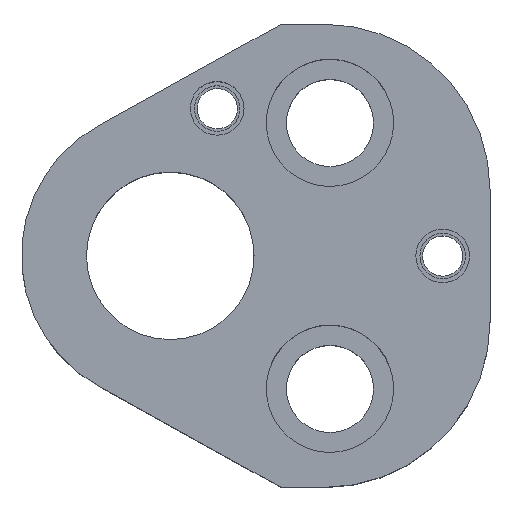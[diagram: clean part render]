
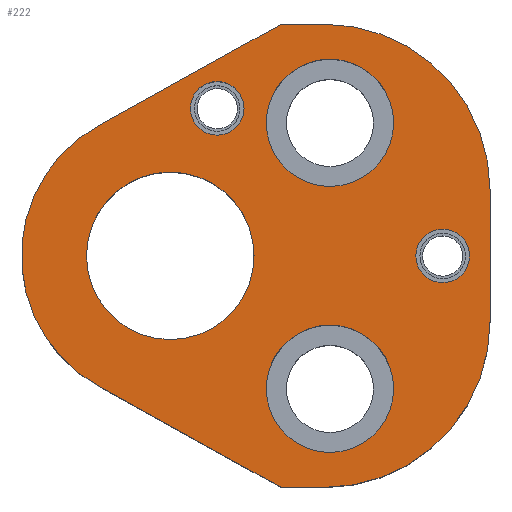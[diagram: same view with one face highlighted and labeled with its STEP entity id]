
A CAD part, top view. The second image highlights one B-rep face of the part: STEP entity #222.
In plain terms, the highlighted planar face has unit normal (0, 0, 1).
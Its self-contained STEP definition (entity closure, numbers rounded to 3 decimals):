
#101=FACE_BOUND('',#311,.T.);
#102=FACE_BOUND('',#312,.T.);
#103=FACE_BOUND('',#313,.T.);
#104=FACE_BOUND('',#314,.T.);
#105=FACE_BOUND('',#315,.T.);
#106=FACE_BOUND('',#316,.T.);
#150=CIRCLE('',#788,24.7);
#152=CIRCLE('',#792,24.7);
#155=CIRCLE('',#798,22.2);
#164=CIRCLE('',#812,9.5);
#166=CIRCLE('',#815,9.5);
#168=CIRCLE('',#819,9.5);
#170=CIRCLE('',#822,9.5);
#172=CIRCLE('',#826,4.);
#173=CIRCLE('',#827,4.);
#174=CIRCLE('',#828,4.);
#175=CIRCLE('',#829,4.);
#176=CIRCLE('',#830,12.5);
#177=CIRCLE('',#831,12.5);
#222=ADVANCED_FACE('',(#101,#102,#103,#104,#105,#106),#252,.T.);
#252=PLANE('',#832);
#311=EDGE_LOOP('',(#421,#422,#423,#424,#425,#426,#427,#428));
#312=EDGE_LOOP('',(#429,#430));
#313=EDGE_LOOP('',(#431,#432));
#314=EDGE_LOOP('',(#433,#434));
#315=EDGE_LOOP('',(#435,#436));
#316=EDGE_LOOP('',(#437,#438));
#421=ORIENTED_EDGE('',*,*,#606,.T.);
#422=ORIENTED_EDGE('',*,*,#610,.T.);
#423=ORIENTED_EDGE('',*,*,#613,.T.);
#424=ORIENTED_EDGE('',*,*,#616,.T.);
#425=ORIENTED_EDGE('',*,*,#619,.T.);
#426=ORIENTED_EDGE('',*,*,#622,.T.);
#427=ORIENTED_EDGE('',*,*,#625,.T.);
#428=ORIENTED_EDGE('',*,*,#628,.T.);
#429=ORIENTED_EDGE('',*,*,#653,.F.);
#430=ORIENTED_EDGE('',*,*,#654,.F.);
#431=ORIENTED_EDGE('',*,*,#655,.F.);
#432=ORIENTED_EDGE('',*,*,#656,.F.);
#433=ORIENTED_EDGE('',*,*,#651,.F.);
#434=ORIENTED_EDGE('',*,*,#647,.F.);
#435=ORIENTED_EDGE('',*,*,#645,.F.);
#436=ORIENTED_EDGE('',*,*,#641,.F.);
#437=ORIENTED_EDGE('',*,*,#657,.T.);
#438=ORIENTED_EDGE('',*,*,#658,.T.);
#542=VERTEX_POINT('',#1118);
#543=VERTEX_POINT('',#1120);
#546=VERTEX_POINT('',#1127);
#548=VERTEX_POINT('',#1133);
#550=VERTEX_POINT('',#1139);
#552=VERTEX_POINT('',#1145);
#554=VERTEX_POINT('',#1151);
#556=VERTEX_POINT('',#1157);
#565=VERTEX_POINT('',#1189);
#566=VERTEX_POINT('',#1190);
#569=VERTEX_POINT('',#1202);
#570=VERTEX_POINT('',#1203);
#573=VERTEX_POINT('',#1215);
#574=VERTEX_POINT('',#1216);
#575=VERTEX_POINT('',#1219);
#576=VERTEX_POINT('',#1220);
#577=VERTEX_POINT('',#1223);
#578=VERTEX_POINT('',#1224);
#606=EDGE_CURVE('',#543,#542,#702,.T.);
#610=EDGE_CURVE('',#542,#546,#706,.T.);
#613=EDGE_CURVE('',#546,#548,#150,.T.);
#616=EDGE_CURVE('',#548,#550,#710,.T.);
#619=EDGE_CURVE('',#550,#552,#152,.T.);
#622=EDGE_CURVE('',#552,#554,#714,.T.);
#625=EDGE_CURVE('',#554,#556,#717,.T.);
#628=EDGE_CURVE('',#556,#543,#155,.T.);
#641=EDGE_CURVE('',#565,#566,#164,.T.);
#645=EDGE_CURVE('',#566,#565,#166,.T.);
#647=EDGE_CURVE('',#569,#570,#168,.T.);
#651=EDGE_CURVE('',#570,#569,#170,.T.);
#653=EDGE_CURVE('',#573,#574,#172,.T.);
#654=EDGE_CURVE('',#574,#573,#173,.T.);
#655=EDGE_CURVE('',#575,#576,#174,.T.);
#656=EDGE_CURVE('',#576,#575,#175,.T.);
#657=EDGE_CURVE('',#577,#578,#176,.T.);
#658=EDGE_CURVE('',#578,#577,#177,.T.);
#702=LINE('',#1119,#744);
#706=LINE('',#1128,#748);
#710=LINE('',#1140,#752);
#714=LINE('',#1152,#756);
#717=LINE('',#1158,#759);
#744=VECTOR('',#884,1.);
#748=VECTOR('',#890,1.);
#752=VECTOR('',#902,1.);
#756=VECTOR('',#914,1.);
#759=VECTOR('',#919,1.);
#788=AXIS2_PLACEMENT_3D('',#1134,#895,#896);
#792=AXIS2_PLACEMENT_3D('',#1146,#907,#908);
#798=AXIS2_PLACEMENT_3D('',#1162,#925,#926);
#812=AXIS2_PLACEMENT_3D('',#1188,#957,#958);
#815=AXIS2_PLACEMENT_3D('',#1197,#965,#966);
#819=AXIS2_PLACEMENT_3D('',#1201,#973,#974);
#822=AXIS2_PLACEMENT_3D('',#1210,#981,#982);
#826=AXIS2_PLACEMENT_3D('',#1214,#989,#990);
#827=AXIS2_PLACEMENT_3D('',#1217,#991,#992);
#828=AXIS2_PLACEMENT_3D('',#1218,#993,#994);
#829=AXIS2_PLACEMENT_3D('',#1221,#995,#996);
#830=AXIS2_PLACEMENT_3D('',#1222,#997,#998);
#831=AXIS2_PLACEMENT_3D('',#1225,#999,#1000);
#832=AXIS2_PLACEMENT_3D('',#1226,#1001,#1002);
#884=DIRECTION('',(0.875,-0.485,0.));
#890=DIRECTION('',(1.,0.,0.));
#895=DIRECTION('',(0.,0.,1.));
#896=DIRECTION('',(-0.707,0.707,0.));
#902=DIRECTION('',(0.,1.,0.));
#907=DIRECTION('',(0.,0.,1.));
#908=DIRECTION('',(-0.707,-0.707,0.));
#914=DIRECTION('',(-1.,0.,0.));
#919=DIRECTION('',(-0.875,-0.485,0.));
#925=DIRECTION('',(0.,0.,1.));
#926=DIRECTION('',(1.,0.,0.));
#957=DIRECTION('',(0.,0.,1.));
#958=DIRECTION('',(-1.,0.,0.));
#965=DIRECTION('',(0.,0.,1.));
#966=DIRECTION('',(1.,0.,0.));
#973=DIRECTION('',(0.,0.,1.));
#974=DIRECTION('',(-1.,0.,0.));
#981=DIRECTION('',(0.,0.,1.));
#982=DIRECTION('',(1.,0.,0.));
#989=DIRECTION('',(0.,0.,1.));
#990=DIRECTION('',(1.,0.,0.));
#991=DIRECTION('',(0.,0.,1.));
#992=DIRECTION('',(-1.,0.,0.));
#993=DIRECTION('',(0.,0.,1.));
#994=DIRECTION('',(1.,0.,0.));
#995=DIRECTION('',(0.,0.,1.));
#996=DIRECTION('',(-1.,0.,0.));
#997=DIRECTION('',(0.,0.,-1.));
#998=DIRECTION('',(-1.,0.,0.));
#999=DIRECTION('',(0.,0.,-1.));
#1000=DIRECTION('',(1.,0.,0.));
#1001=DIRECTION('',(0.,0.,1.));
#1002=DIRECTION('',(-0.875,0.485,0.));
#1118=CARTESIAN_POINT('',(16.539,-34.55,32.));
#1119=CARTESIAN_POINT('',(16.539,-34.55,32.));
#1120=CARTESIAN_POINT('',(-10.763,-19.417,32.));
#1127=CARTESIAN_POINT('',(23.,-34.55,32.));
#1128=CARTESIAN_POINT('',(16.539,-34.55,32.));
#1133=CARTESIAN_POINT('',(47.7,-9.85,32.));
#1134=CARTESIAN_POINT('',(23.,-9.85,32.));
#1139=CARTESIAN_POINT('',(47.7,9.85,32.));
#1140=CARTESIAN_POINT('',(47.7,9.85,32.));
#1145=CARTESIAN_POINT('',(23.,34.55,32.));
#1146=CARTESIAN_POINT('',(23.,9.85,32.));
#1151=CARTESIAN_POINT('',(16.539,34.55,32.));
#1152=CARTESIAN_POINT('',(16.539,34.55,32.));
#1157=CARTESIAN_POINT('',(-10.763,19.417,32.));
#1158=CARTESIAN_POINT('',(16.539,34.55,32.));
#1162=CARTESIAN_POINT('',(0.,0.,32.));
#1188=CARTESIAN_POINT('',(23.82,-19.84,32.));
#1189=CARTESIAN_POINT('',(23.82,-29.34,32.));
#1190=CARTESIAN_POINT('',(23.82,-10.34,32.));
#1197=CARTESIAN_POINT('',(23.82,-19.84,32.));
#1201=CARTESIAN_POINT('',(23.82,19.84,32.));
#1202=CARTESIAN_POINT('',(23.82,10.34,32.));
#1203=CARTESIAN_POINT('',(23.82,29.34,32.));
#1210=CARTESIAN_POINT('',(23.82,19.84,32.));
#1214=CARTESIAN_POINT('',(40.64,0.,32.));
#1215=CARTESIAN_POINT('',(40.64,4.,32.));
#1216=CARTESIAN_POINT('',(40.64,-4.,32.));
#1217=CARTESIAN_POINT('',(40.64,0.,32.));
#1218=CARTESIAN_POINT('',(7.,22.,32.));
#1219=CARTESIAN_POINT('',(7.,26.,32.));
#1220=CARTESIAN_POINT('',(7.,18.,32.));
#1221=CARTESIAN_POINT('',(7.,22.,32.));
#1222=CARTESIAN_POINT('',(0.,0.,32.));
#1223=CARTESIAN_POINT('',(0.,12.5,32.));
#1224=CARTESIAN_POINT('',(0.,-12.5,32.));
#1225=CARTESIAN_POINT('',(0.,0.,32.));
#1226=CARTESIAN_POINT('',(-10.763,-19.417,32.));
